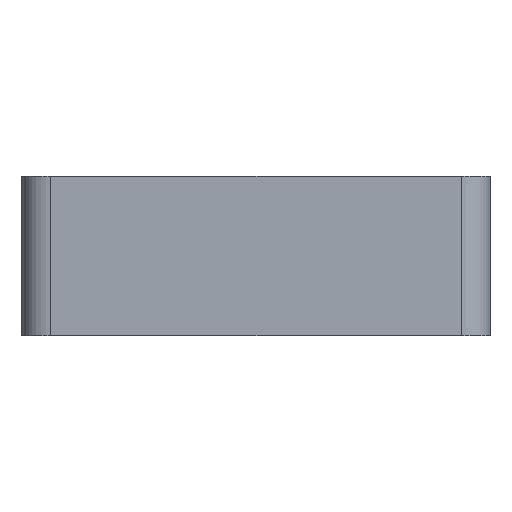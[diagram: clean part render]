
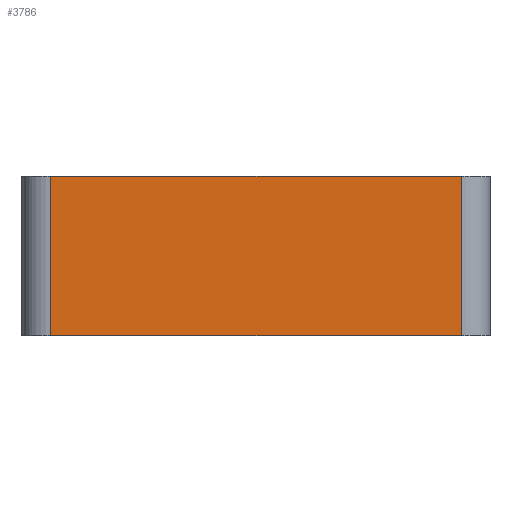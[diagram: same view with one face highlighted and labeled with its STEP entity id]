
A CAD part, front view. The second image highlights one B-rep face of the part: STEP entity #3786.
In plain terms, the highlighted planar face has unit normal (0, -1, 0).
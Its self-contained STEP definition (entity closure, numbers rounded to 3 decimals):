
#44 = PLANE('',#45);
#45 = AXIS2_PLACEMENT_3D('',#46,#47,#48);
#46 = CARTESIAN_POINT('',(0.,0.,0.));
#47 = DIRECTION('',(0.,0.,1.));
#48 = DIRECTION('',(1.,0.,-0.));
#72 = CYLINDRICAL_SURFACE('',#73,5.);
#73 = AXIS2_PLACEMENT_3D('',#74,#75,#76);
#74 = CARTESIAN_POINT('',(-36.,-50.,0.));
#75 = DIRECTION('',(0.,0.,-1.));
#76 = DIRECTION('',(-1.,0.,0.));
#100 = PLANE('',#101);
#101 = AXIS2_PLACEMENT_3D('',#102,#103,#104);
#102 = CARTESIAN_POINT('',(0.,0.,28.));
#103 = DIRECTION('',(0.,0.,1.));
#104 = DIRECTION('',(1.,0.,-0.));
#141 = VERTEX_POINT('',#142);
#142 = CARTESIAN_POINT('',(-36.,-55.,0.));
#168 = EDGE_CURVE('',#141,#169,#171,.T.);
#169 = VERTEX_POINT('',#170);
#170 = CARTESIAN_POINT('',(36.,-55.,0.));
#171 = SURFACE_CURVE('',#172,(#176,#183),.PCURVE_S1.);
#172 = LINE('',#173,#174);
#173 = CARTESIAN_POINT('',(0.,-55.,0.));
#174 = VECTOR('',#175,1.);
#175 = DIRECTION('',(1.,0.,0.));
#176 = PCURVE('',#44,#177);
#177 = DEFINITIONAL_REPRESENTATION('',(#178),#182);
#178 = LINE('',#179,#180);
#179 = CARTESIAN_POINT('',(0.,-55.));
#180 = VECTOR('',#181,1.);
#181 = DIRECTION('',(1.,0.));
#182 = ( GEOMETRIC_REPRESENTATION_CONTEXT(2) 
PARAMETRIC_REPRESENTATION_CONTEXT() REPRESENTATION_CONTEXT('2D SPACE',''
  ) );
#183 = PCURVE('',#184,#189);
#184 = PLANE('',#185);
#185 = AXIS2_PLACEMENT_3D('',#186,#187,#188);
#186 = CARTESIAN_POINT('',(-36.,-55.,0.));
#187 = DIRECTION('',(0.,1.,0.));
#188 = DIRECTION('',(1.,0.,0.));
#189 = DEFINITIONAL_REPRESENTATION('',(#190),#194);
#190 = LINE('',#191,#192);
#191 = CARTESIAN_POINT('',(36.,0.));
#192 = VECTOR('',#193,1.);
#193 = DIRECTION('',(1.,0.));
#194 = ( GEOMETRIC_REPRESENTATION_CONTEXT(2) 
PARAMETRIC_REPRESENTATION_CONTEXT() REPRESENTATION_CONTEXT('2D SPACE',''
  ) );
#217 = CYLINDRICAL_SURFACE('',#218,5.);
#218 = AXIS2_PLACEMENT_3D('',#219,#220,#221);
#219 = CARTESIAN_POINT('',(36.,-50.,0.));
#220 = DIRECTION('',(0.,0.,-1.));
#221 = DIRECTION('',(-1.,0.,0.));
#1534 = VERTEX_POINT('',#1535);
#1535 = CARTESIAN_POINT('',(-36.,-55.,28.));
#1561 = EDGE_CURVE('',#1534,#1562,#1564,.T.);
#1562 = VERTEX_POINT('',#1563);
#1563 = CARTESIAN_POINT('',(36.,-55.,28.));
#1564 = SURFACE_CURVE('',#1565,(#1569,#1576),.PCURVE_S1.);
#1565 = LINE('',#1566,#1567);
#1566 = CARTESIAN_POINT('',(0.,-55.,28.));
#1567 = VECTOR('',#1568,1.);
#1568 = DIRECTION('',(1.,0.,0.));
#1569 = PCURVE('',#100,#1570);
#1570 = DEFINITIONAL_REPRESENTATION('',(#1571),#1575);
#1571 = LINE('',#1572,#1573);
#1572 = CARTESIAN_POINT('',(0.,-55.));
#1573 = VECTOR('',#1574,1.);
#1574 = DIRECTION('',(1.,0.));
#1575 = ( GEOMETRIC_REPRESENTATION_CONTEXT(2) 
PARAMETRIC_REPRESENTATION_CONTEXT() REPRESENTATION_CONTEXT('2D SPACE',''
  ) );
#1576 = PCURVE('',#184,#1577);
#1577 = DEFINITIONAL_REPRESENTATION('',(#1578),#1582);
#1578 = LINE('',#1579,#1580);
#1579 = CARTESIAN_POINT('',(36.,-28.));
#1580 = VECTOR('',#1581,1.);
#1581 = DIRECTION('',(1.,0.));
#1582 = ( GEOMETRIC_REPRESENTATION_CONTEXT(2) 
PARAMETRIC_REPRESENTATION_CONTEXT() REPRESENTATION_CONTEXT('2D SPACE',''
  ) );
#2389 = EDGE_CURVE('',#141,#1534,#2390,.T.);
#2390 = SURFACE_CURVE('',#2391,(#2395,#2402),.PCURVE_S1.);
#2391 = LINE('',#2392,#2393);
#2392 = CARTESIAN_POINT('',(-36.,-55.,0.));
#2393 = VECTOR('',#2394,1.);
#2394 = DIRECTION('',(0.,0.,1.));
#2395 = PCURVE('',#72,#2396);
#2396 = DEFINITIONAL_REPRESENTATION('',(#2397),#2401);
#2397 = LINE('',#2398,#2399);
#2398 = CARTESIAN_POINT('',(4.712,0.));
#2399 = VECTOR('',#2400,1.);
#2400 = DIRECTION('',(0.,-1.));
#2401 = ( GEOMETRIC_REPRESENTATION_CONTEXT(2) 
PARAMETRIC_REPRESENTATION_CONTEXT() REPRESENTATION_CONTEXT('2D SPACE',''
  ) );
#2402 = PCURVE('',#184,#2403);
#2403 = DEFINITIONAL_REPRESENTATION('',(#2404),#2408);
#2404 = LINE('',#2405,#2406);
#2405 = CARTESIAN_POINT('',(0.,0.));
#2406 = VECTOR('',#2407,1.);
#2407 = DIRECTION('',(0.,-1.));
#2408 = ( GEOMETRIC_REPRESENTATION_CONTEXT(2) 
PARAMETRIC_REPRESENTATION_CONTEXT() REPRESENTATION_CONTEXT('2D SPACE',''
  ) );
#3765 = EDGE_CURVE('',#169,#1562,#3766,.T.);
#3766 = SURFACE_CURVE('',#3767,(#3771,#3778),.PCURVE_S1.);
#3767 = LINE('',#3768,#3769);
#3768 = CARTESIAN_POINT('',(36.,-55.,0.));
#3769 = VECTOR('',#3770,1.);
#3770 = DIRECTION('',(0.,0.,1.));
#3771 = PCURVE('',#217,#3772);
#3772 = DEFINITIONAL_REPRESENTATION('',(#3773),#3777);
#3773 = LINE('',#3774,#3775);
#3774 = CARTESIAN_POINT('',(4.712,0.));
#3775 = VECTOR('',#3776,1.);
#3776 = DIRECTION('',(0.,-1.));
#3777 = ( GEOMETRIC_REPRESENTATION_CONTEXT(2) 
PARAMETRIC_REPRESENTATION_CONTEXT() REPRESENTATION_CONTEXT('2D SPACE',''
  ) );
#3778 = PCURVE('',#184,#3779);
#3779 = DEFINITIONAL_REPRESENTATION('',(#3780),#3784);
#3780 = LINE('',#3781,#3782);
#3781 = CARTESIAN_POINT('',(72.,0.));
#3782 = VECTOR('',#3783,1.);
#3783 = DIRECTION('',(0.,-1.));
#3784 = ( GEOMETRIC_REPRESENTATION_CONTEXT(2) 
PARAMETRIC_REPRESENTATION_CONTEXT() REPRESENTATION_CONTEXT('2D SPACE',''
  ) );
#3786 = ADVANCED_FACE('',(#3787),#184,.F.);
#3787 = FACE_BOUND('',#3788,.F.);
#3788 = EDGE_LOOP('',(#3789,#3790,#3791,#3792));
#3789 = ORIENTED_EDGE('',*,*,#2389,.T.);
#3790 = ORIENTED_EDGE('',*,*,#1561,.T.);
#3791 = ORIENTED_EDGE('',*,*,#3765,.F.);
#3792 = ORIENTED_EDGE('',*,*,#168,.F.);
